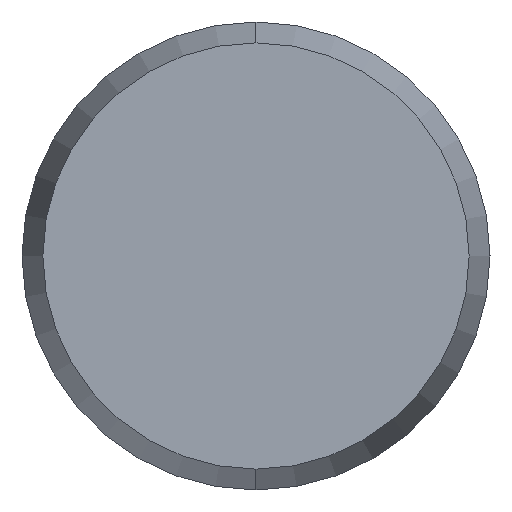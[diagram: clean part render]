
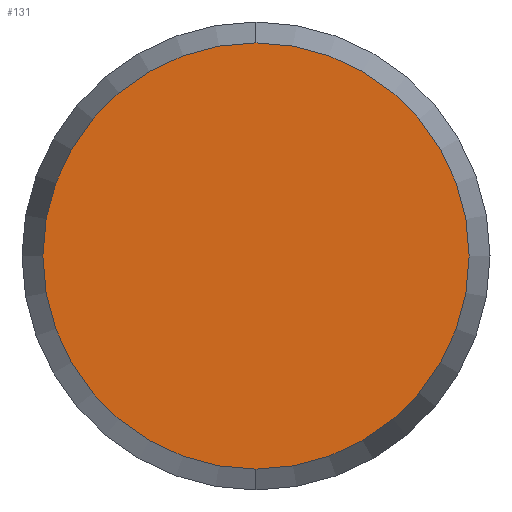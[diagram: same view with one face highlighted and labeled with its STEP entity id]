
A CAD part, left-side view. The second image highlights one B-rep face of the part: STEP entity #131.
In plain terms, the highlighted planar face has unit normal (-1, 0, 0).
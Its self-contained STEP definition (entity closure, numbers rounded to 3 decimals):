
#64 = CARTESIAN_POINT ( 'NONE',  ( -18., 0., -2.732 ) ) ;
#65 = CARTESIAN_POINT ( 'NONE',  ( -18., 0., 2.732 ) ) ;
#66 = DIRECTION ( 'NONE',  ( 0., 0., -1. ) ) ;
#67 = DIRECTION ( 'NONE',  ( 1., 0., 0. ) ) ;
#68 = CARTESIAN_POINT ( 'NONE',  ( -18., 0., 0. ) ) ;
#69 = AXIS2_PLACEMENT_3D ( 'NONE', #68, #67, #66 ) ;
#73 = CIRCLE ( 'NONE', #69, 2.732 ) ;
#93 = DIRECTION ( 'NONE',  ( 0., 0., -1. ) ) ;
#94 = DIRECTION ( 'NONE',  ( 1., 0., 0. ) ) ;
#95 = CARTESIAN_POINT ( 'NONE',  ( -18., 0., 0. ) ) ;
#96 = AXIS2_PLACEMENT_3D ( 'NONE', #95, #94, #93 ) ;
#97 = PLANE ( 'NONE',  #96 ) ;
#98 = FACE_OUTER_BOUND ( 'NONE', #132, .T. ) ;
#99 = DIRECTION ( 'NONE',  ( 0., 0., -1. ) ) ;
#100 = DIRECTION ( 'NONE',  ( 1., 0., 0. ) ) ;
#101 = CARTESIAN_POINT ( 'NONE',  ( -18., 0., 0. ) ) ;
#102 = AXIS2_PLACEMENT_3D ( 'NONE', #101, #100, #99 ) ;
#103 = CIRCLE ( 'NONE', #102, 2.732 ) ;
#117 = ORIENTED_EDGE ( 'NONE', *, *, #145, .F. ) ;
#118 = ORIENTED_EDGE ( 'NONE', *, *, #128, .F. ) ;
#128 = EDGE_CURVE ( 'NONE', #147, #146, #103, .T. ) ;
#131 = ADVANCED_FACE ( 'NONE', ( #98 ), #97, .F. ) ;
#132 = EDGE_LOOP ( 'NONE', ( #117, #118 ) ) ;
#145 = EDGE_CURVE ( 'NONE', #146, #147, #73, .T. ) ;
#146 = VERTEX_POINT ( 'NONE', #65 ) ;
#147 = VERTEX_POINT ( 'NONE', #64 ) ;
